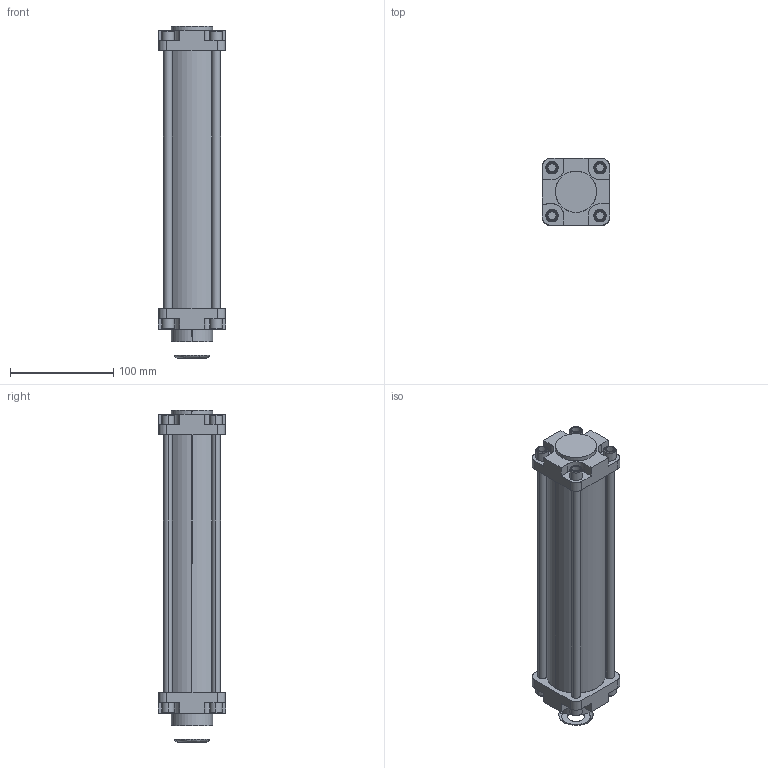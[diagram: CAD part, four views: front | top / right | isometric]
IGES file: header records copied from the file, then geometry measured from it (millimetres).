
Start section: SolidWorks IGES FILE using analytic representation for surfaces
Global section: file name: Verin_corps.IGS; native system: SolidWorks 2003 by SolidWorks Corporation; preprocessor: Version 5.3; author: sujet; date: 040213.102541; units: millimetre
Bounding box: 65 x 65 x 322 mm (x, y, z)
Surface area: 94709.2 mm2 (no closed solid volume)
Topology: 0 solids, 0 shells, 114 faces, 2637 edges, 2633 vertices
Faces by surface type: bspline 60, revolution 54
